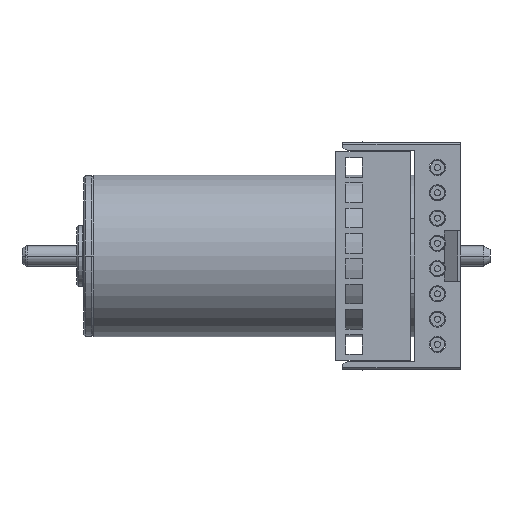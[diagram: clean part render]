
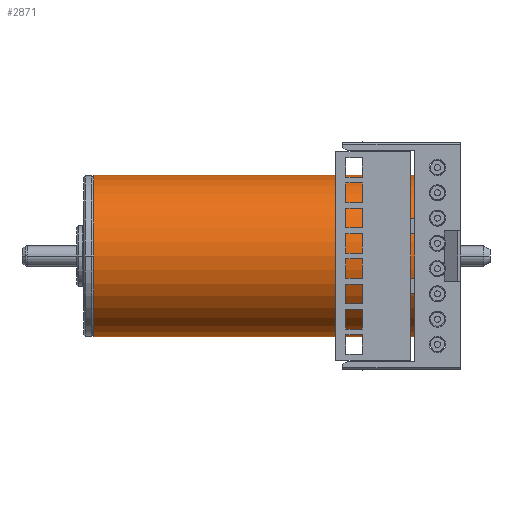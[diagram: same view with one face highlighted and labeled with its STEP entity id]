
A CAD part, front view. The second image highlights one B-rep face of the part: STEP entity #2871.
In plain terms, the highlighted cylindrical face has radius 8 mm (diameter 16 mm), a partial arc.
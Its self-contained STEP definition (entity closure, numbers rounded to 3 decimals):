
#109=CARTESIAN_POINT('',(33.5,0.,0.));
#110=DIRECTION('',(1.,0.,0.));
#111=DIRECTION('',(0.,0.,1.));
#112=AXIS2_PLACEMENT_3D('',#109,#110,#111);
#319=DIRECTION('',(1.,0.,0.));
#320=VECTOR('',#319,32.5);
#321=CARTESIAN_POINT('',(1.,0.,-8.));
#322=LINE('',#321,#320);
#334=CARTESIAN_POINT('',(1.,0.,0.));
#335=DIRECTION('',(1.,0.,0.));
#336=DIRECTION('',(0.,0.,1.));
#337=AXIS2_PLACEMENT_3D('',#334,#335,#336);
#342=DIRECTION('',(1.,0.,0.));
#343=VECTOR('',#342,32.5);
#344=CARTESIAN_POINT('',(1.,0.,8.));
#345=LINE('',#344,#343);
#2408=CARTESIAN_POINT('',(1.,0.,-8.));
#2409=CARTESIAN_POINT('',(1.,0.,8.));
#2410=VERTEX_POINT('',#2408);
#2411=VERTEX_POINT('',#2409);
#2412=CARTESIAN_POINT('',(33.5,0.,-8.));
#2413=CARTESIAN_POINT('',(33.5,0.,8.));
#2414=VERTEX_POINT('',#2412);
#2415=VERTEX_POINT('',#2413);
#2860=CARTESIAN_POINT('',(1.,0.,0.));
#2861=DIRECTION('',(1.,0.,0.));
#2862=DIRECTION('',(0.,0.,-1.));
#2863=AXIS2_PLACEMENT_3D('',#2860,#2861,#2862);
#2864=CYLINDRICAL_SURFACE('',#2863,8.);
#2865=ORIENTED_EDGE('',*,*,#2849,.F.);
#2866=ORIENTED_EDGE('',*,*,#2838,.T.);
#2867=ORIENTED_EDGE('',*,*,#2763,.T.);
#2868=ORIENTED_EDGE('',*,*,#2835,.F.);
#2869=EDGE_LOOP('',(#2865,#2866,#2867,#2868));
#2870=FACE_OUTER_BOUND('',#2869,.F.);
#2871=ADVANCED_FACE('',(#2870),#2864,.T.);
#113=CIRCLE('',#112,8.);
#338=CIRCLE('',#337,8.);
#2763=EDGE_CURVE('',#2415,#2414,#113,.T.);
#2835=EDGE_CURVE('',#2410,#2414,#322,.T.);
#2838=EDGE_CURVE('',#2411,#2415,#345,.T.);
#2849=EDGE_CURVE('',#2411,#2410,#338,.T.);
